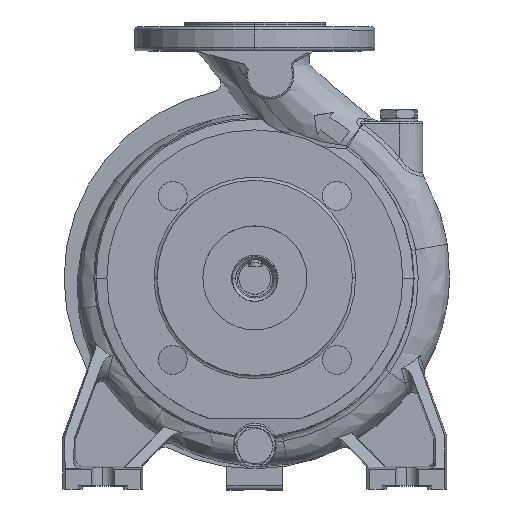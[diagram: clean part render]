
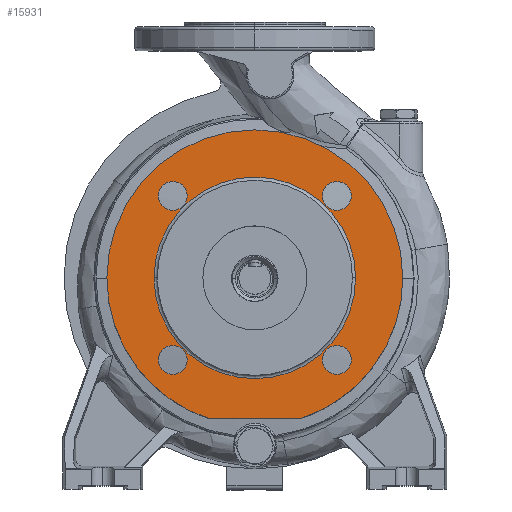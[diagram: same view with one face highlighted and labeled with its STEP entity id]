
A CAD part, top view. The second image highlights one B-rep face of the part: STEP entity #15931.
In plain terms, the highlighted planar face has unit normal (0, 0, 1).
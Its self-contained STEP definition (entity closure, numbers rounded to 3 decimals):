
#541 = CARTESIAN_POINT ( 'NONE',  ( -42.265, -51.265, 77. ) ) ;
#548 = VERTEX_POINT ( 'NONE', #5496 ) ;
#591 = CARTESIAN_POINT ( 'NONE',  ( 28.5, -88., 77. ) ) ;
#705 = AXIS2_PLACEMENT_3D ( 'NONE', #9221, #19179, #12310 ) ;
#811 = ORIENTED_EDGE ( 'NONE', *, *, #27530, .F. ) ;
#879 = CARTESIAN_POINT ( 'NONE',  ( -60.265, -51.265, 77. ) ) ;
#2327 = DIRECTION ( 'NONE',  ( -1., 0., 0. ) ) ;
#2477 = CARTESIAN_POINT ( 'NONE',  ( -60.265, 51.265, 77. ) ) ;
#2690 = EDGE_CURVE ( 'NONE', #36445, #12204, #19732, .T. ) ;
#2817 = PLANE ( 'NONE',  #27636 ) ;
#3041 = CIRCLE ( 'NONE', #40687, 9. ) ;
#3115 = DIRECTION ( 'NONE',  ( 1., 0., 0. ) ) ;
#3346 = DIRECTION ( 'NONE',  ( 0., 0., -1. ) ) ;
#3968 = ORIENTED_EDGE ( 'NONE', *, *, #22294, .T. ) ;
#4053 = AXIS2_PLACEMENT_3D ( 'NONE', #14282, #13883, #33299 ) ;
#4344 = CARTESIAN_POINT ( 'NONE',  ( 51.265, 51.265, 77. ) ) ;
#4427 = ORIENTED_EDGE ( 'NONE', *, *, #24042, .F. ) ;
#4731 = VERTEX_POINT ( 'NONE', #541 ) ;
#5018 = CARTESIAN_POINT ( 'NONE',  ( 0., 0., 77. ) ) ;
#5209 = CARTESIAN_POINT ( 'NONE',  ( 51.265, -51.265, 77. ) ) ;
#5344 = EDGE_CURVE ( 'NONE', #23181, #22139, #19855, .T. ) ;
#5470 = EDGE_LOOP ( 'NONE', ( #28762, #23327 ) ) ;
#5496 = CARTESIAN_POINT ( 'NONE',  ( 60.265, 51.265, 77. ) ) ;
#5727 = CARTESIAN_POINT ( 'NONE',  ( 51.265, -51.265, 77. ) ) ;
#5948 = CIRCLE ( 'NONE', #4053, 63. ) ;
#6230 = AXIS2_PLACEMENT_3D ( 'NONE', #23373, #14794, #21238 ) ;
#6291 = CIRCLE ( 'NONE', #29392, 92.5 ) ;
#6527 = CIRCLE ( 'NONE', #34899, 9. ) ;
#7582 = CARTESIAN_POINT ( 'NONE',  ( 92.5, 0., 77. ) ) ;
#8111 = DIRECTION ( 'NONE',  ( 0., 0., 1. ) ) ;
#8215 = EDGE_CURVE ( 'NONE', #40060, #548, #33016, .T. ) ;
#9016 = DIRECTION ( 'NONE',  ( 0., 0., 1. ) ) ;
#9161 = ORIENTED_EDGE ( 'NONE', *, *, #12176, .F. ) ;
#9221 = CARTESIAN_POINT ( 'NONE',  ( -51.265, 51.265, 77. ) ) ;
#9541 = EDGE_CURVE ( 'NONE', #23239, #29187, #24076, .T. ) ;
#10298 = EDGE_CURVE ( 'NONE', #36776, #4731, #24020, .T. ) ;
#10624 = ORIENTED_EDGE ( 'NONE', *, *, #2690, .T. ) ;
#10682 = VERTEX_POINT ( 'NONE', #19230 ) ;
#10792 = DIRECTION ( 'NONE',  ( 0., 0., 1. ) ) ;
#10796 = CARTESIAN_POINT ( 'NONE',  ( 0., 0., 77. ) ) ;
#11320 = EDGE_CURVE ( 'NONE', #10682, #31751, #38869, .T. ) ;
#11851 = CARTESIAN_POINT ( 'NONE',  ( -28.5, -88., 77. ) ) ;
#12176 = EDGE_CURVE ( 'NONE', #4731, #36776, #6527, .T. ) ;
#12204 = VERTEX_POINT ( 'NONE', #11851 ) ;
#12310 = DIRECTION ( 'NONE',  ( 1., 0., 0. ) ) ;
#12478 = DIRECTION ( 'NONE',  ( 0., 0., 1. ) ) ;
#13681 = VERTEX_POINT ( 'NONE', #19175 ) ;
#13883 = DIRECTION ( 'NONE',  ( 0., 0., -1. ) ) ;
#14030 = EDGE_CURVE ( 'NONE', #13681, #14290, #5948, .T. ) ;
#14033 = CARTESIAN_POINT ( 'NONE',  ( 42.265, 51.265, 77. ) ) ;
#14282 = CARTESIAN_POINT ( 'NONE',  ( 0., 0., 77. ) ) ;
#14290 = VERTEX_POINT ( 'NONE', #19555 ) ;
#14794 = DIRECTION ( 'NONE',  ( 0., 0., 1. ) ) ;
#15017 = FACE_BOUND ( 'NONE', #17819, .T. ) ;
#15921 = DIRECTION ( 'NONE',  ( 0., 0., 1. ) ) ;
#15931 = ADVANCED_FACE ( 'NONE', ( #24354, #15017, #40068, #18142, #40270, #17948 ), #2817, .T. ) ;
#16951 = DIRECTION ( 'NONE',  ( 0., 0., 1. ) ) ;
#16985 = DIRECTION ( 'NONE',  ( 1., 0., 0. ) ) ;
#17819 = EDGE_LOOP ( 'NONE', ( #9161, #31068 ) ) ;
#17948 = FACE_OUTER_BOUND ( 'NONE', #30629, .T. ) ;
#18142 = FACE_BOUND ( 'NONE', #32176, .T. ) ;
#18250 = DIRECTION ( 'NONE',  ( 1., 0., 0. ) ) ;
#18553 = ORIENTED_EDGE ( 'NONE', *, *, #5344, .F. ) ;
#19175 = CARTESIAN_POINT ( 'NONE',  ( 63., 0., 77. ) ) ;
#19179 = DIRECTION ( 'NONE',  ( 0., 0., 1. ) ) ;
#19230 = CARTESIAN_POINT ( 'NONE',  ( 42.265, -51.265, 77. ) ) ;
#19555 = CARTESIAN_POINT ( 'NONE',  ( -63., 0., 77. ) ) ;
#19732 = CIRCLE ( 'NONE', #33603, 92.5 ) ;
#19855 = CIRCLE ( 'NONE', #705, 9. ) ;
#20184 = DIRECTION ( 'NONE',  ( 0., 0., 1. ) ) ;
#20841 = ORIENTED_EDGE ( 'NONE', *, *, #11320, .F. ) ;
#21238 = DIRECTION ( 'NONE',  ( 1., 0., 0. ) ) ;
#21262 = CARTESIAN_POINT ( 'NONE',  ( 0., 63., 77. ) ) ;
#22003 = CARTESIAN_POINT ( 'NONE',  ( -42.265, 51.265, 77. ) ) ;
#22139 = VERTEX_POINT ( 'NONE', #22003 ) ;
#22162 = AXIS2_PLACEMENT_3D ( 'NONE', #34932, #15921, #34117 ) ;
#22294 = EDGE_CURVE ( 'NONE', #29187, #36445, #6291, .T. ) ;
#22385 = AXIS2_PLACEMENT_3D ( 'NONE', #31446, #3346, #25269 ) ;
#23181 = VERTEX_POINT ( 'NONE', #2477 ) ;
#23239 = VERTEX_POINT ( 'NONE', #591 ) ;
#23327 = ORIENTED_EDGE ( 'NONE', *, *, #14030, .T. ) ;
#23356 = AXIS2_PLACEMENT_3D ( 'NONE', #25256, #38268, #3115 ) ;
#23373 = CARTESIAN_POINT ( 'NONE',  ( 0., 0., 77. ) ) ;
#23426 = ORIENTED_EDGE ( 'NONE', *, *, #8215, .F. ) ;
#24020 = CIRCLE ( 'NONE', #23356, 9. ) ;
#24042 = EDGE_CURVE ( 'NONE', #548, #40060, #24177, .T. ) ;
#24076 = CIRCLE ( 'NONE', #6230, 92.5 ) ;
#24177 = CIRCLE ( 'NONE', #22162, 9. ) ;
#24354 = FACE_BOUND ( 'NONE', #37427, .T. ) ;
#25109 = DIRECTION ( 'NONE',  ( 1., 0., 0. ) ) ;
#25256 = CARTESIAN_POINT ( 'NONE',  ( -51.265, -51.265, 77. ) ) ;
#25269 = DIRECTION ( 'NONE',  ( -1., 0., 0. ) ) ;
#26773 = EDGE_CURVE ( 'NONE', #31751, #10682, #34201, .T. ) ;
#27530 = EDGE_CURVE ( 'NONE', #22139, #23181, #3041, .T. ) ;
#27636 = AXIS2_PLACEMENT_3D ( 'NONE', #21262, #9016, #33649 ) ;
#28762 = ORIENTED_EDGE ( 'NONE', *, *, #35526, .T. ) ;
#29187 = VERTEX_POINT ( 'NONE', #7582 ) ;
#29277 = ORIENTED_EDGE ( 'NONE', *, *, #26773, .F. ) ;
#29358 = DIRECTION ( 'NONE',  ( 1., 0., 0. ) ) ;
#29392 = AXIS2_PLACEMENT_3D ( 'NONE', #10796, #29608, #35201 ) ;
#29608 = DIRECTION ( 'NONE',  ( 0., 0., 1. ) ) ;
#30084 = CARTESIAN_POINT ( 'NONE',  ( -51.265, 51.265, 77. ) ) ;
#30544 = ORIENTED_EDGE ( 'NONE', *, *, #9541, .T. ) ;
#30548 = DIRECTION ( 'NONE',  ( 1., 0., 0. ) ) ;
#30629 = EDGE_LOOP ( 'NONE', ( #39788, #30544, #3968, #10624 ) ) ;
#30668 = LINE ( 'NONE', #37285, #31574 ) ;
#31068 = ORIENTED_EDGE ( 'NONE', *, *, #10298, .F. ) ;
#31446 = CARTESIAN_POINT ( 'NONE',  ( 0., 0., 77. ) ) ;
#31574 = VECTOR ( 'NONE', #2327, 1000. ) ;
#31751 = VERTEX_POINT ( 'NONE', #37886 ) ;
#32176 = EDGE_LOOP ( 'NONE', ( #4427, #23426 ) ) ;
#32351 = AXIS2_PLACEMENT_3D ( 'NONE', #4344, #16951, #29358 ) ;
#33016 = CIRCLE ( 'NONE', #32351, 9. ) ;
#33299 = DIRECTION ( 'NONE',  ( -1., 0., 0. ) ) ;
#33510 = EDGE_LOOP ( 'NONE', ( #29277, #20841 ) ) ;
#33603 = AXIS2_PLACEMENT_3D ( 'NONE', #5018, #8111, #18250 ) ;
#33649 = DIRECTION ( 'NONE',  ( 1., 0., 0. ) ) ;
#34117 = DIRECTION ( 'NONE',  ( 1., 0., 0. ) ) ;
#34201 = CIRCLE ( 'NONE', #39506, 9. ) ;
#34899 = AXIS2_PLACEMENT_3D ( 'NONE', #40811, #12478, #25109 ) ;
#34932 = CARTESIAN_POINT ( 'NONE',  ( 51.265, 51.265, 77. ) ) ;
#35201 = DIRECTION ( 'NONE',  ( 1., 0., 0. ) ) ;
#35526 = EDGE_CURVE ( 'NONE', #14290, #13681, #37589, .T. ) ;
#36445 = VERTEX_POINT ( 'NONE', #40019 ) ;
#36754 = DIRECTION ( 'NONE',  ( 0., 0., 1. ) ) ;
#36776 = VERTEX_POINT ( 'NONE', #879 ) ;
#37285 = CARTESIAN_POINT ( 'NONE',  ( -34.442, -88., 77. ) ) ;
#37427 = EDGE_LOOP ( 'NONE', ( #811, #18553 ) ) ;
#37589 = CIRCLE ( 'NONE', #22385, 63. ) ;
#37886 = CARTESIAN_POINT ( 'NONE',  ( 60.265, -51.265, 77. ) ) ;
#38268 = DIRECTION ( 'NONE',  ( 0., 0., 1. ) ) ;
#38869 = CIRCLE ( 'NONE', #40855, 9. ) ;
#39196 = DIRECTION ( 'NONE',  ( 1., 0., 0. ) ) ;
#39375 = EDGE_CURVE ( 'NONE', #23239, #12204, #30668, .T. ) ;
#39506 = AXIS2_PLACEMENT_3D ( 'NONE', #5727, #36754, #30548 ) ;
#39788 = ORIENTED_EDGE ( 'NONE', *, *, #39375, .F. ) ;
#40019 = CARTESIAN_POINT ( 'NONE',  ( -92.5, 0., 77. ) ) ;
#40060 = VERTEX_POINT ( 'NONE', #14033 ) ;
#40068 = FACE_BOUND ( 'NONE', #33510, .T. ) ;
#40270 = FACE_BOUND ( 'NONE', #5470, .T. ) ;
#40687 = AXIS2_PLACEMENT_3D ( 'NONE', #30084, #20184, #39196 ) ;
#40811 = CARTESIAN_POINT ( 'NONE',  ( -51.265, -51.265, 77. ) ) ;
#40855 = AXIS2_PLACEMENT_3D ( 'NONE', #5209, #10792, #16985 ) ;
